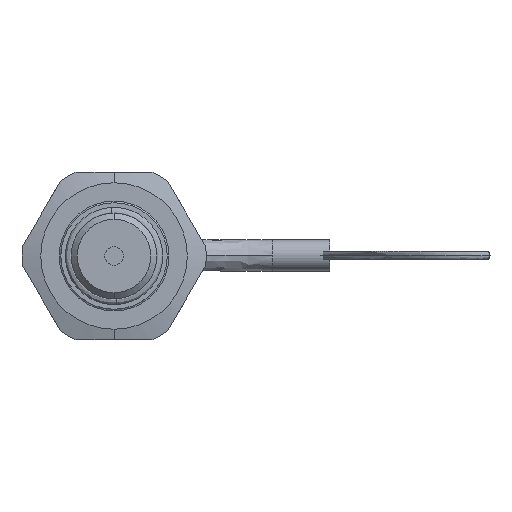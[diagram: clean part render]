
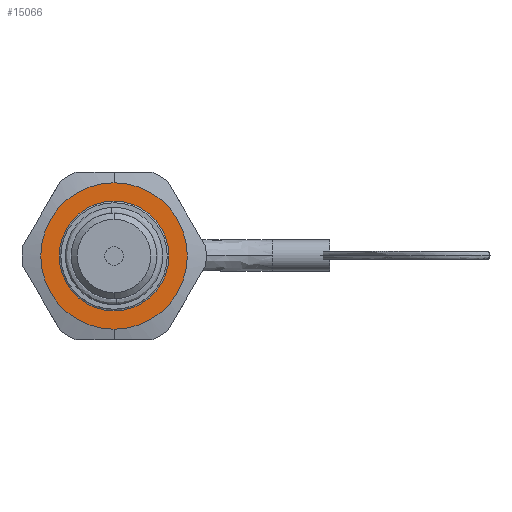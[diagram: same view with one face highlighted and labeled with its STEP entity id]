
A CAD part, left-side view. The second image highlights one B-rep face of the part: STEP entity #15066.
In plain terms, the highlighted free-form (B-spline) face has degree [1, 1] with [2, 2] control points.
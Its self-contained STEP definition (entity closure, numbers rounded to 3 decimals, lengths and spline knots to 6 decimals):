
#395=B_SPLINE_SURFACE_WITH_KNOTS('',1,1,((#23128,#23129),(#23130,#23131)),
 .PLANE_SURF.,.F.,.F.,.F.,(2,2),(2,2),(0.,1.),(0.,1.),.UNSPECIFIED.);
#2100=ORIENTED_EDGE('',*,*,#6971,.T.);
#2101=ORIENTED_EDGE('',*,*,#7015,.T.);
#2102=ORIENTED_EDGE('',*,*,#6919,.F.);
#2103=ORIENTED_EDGE('',*,*,#7016,.F.);
#6919=EDGE_CURVE('',#9397,#9398,#11043,.T.);
#6971=EDGE_CURVE('',#9428,#9427,#11067,.T.);
#7015=EDGE_CURVE('',#9427,#9428,#11081,.T.);
#7016=EDGE_CURVE('',#9398,#9397,#11082,.T.);
#9397=VERTEX_POINT('',#22694);
#9398=VERTEX_POINT('',#22695);
#9427=VERTEX_POINT('',#22937);
#9428=VERTEX_POINT('',#22939);
#11043=CIRCLE('',#16151,0.0134);
#11067=CIRCLE('',#16175,0.0179);
#11081=CIRCLE('',#16189,0.0179);
#11082=CIRCLE('',#16190,0.0134);
#12434=EDGE_LOOP('',(#2100,#2101));
#12435=EDGE_LOOP('',(#2102,#2103));
#13366=FACE_BOUND('',#12434,.T.);
#13367=FACE_BOUND('',#12435,.T.);
#15066=ADVANCED_FACE('',(#13366,#13367),#395,.F.);
#16151=AXIS2_PLACEMENT_3D('',#22693,#17690,#17691);
#16175=AXIS2_PLACEMENT_3D('',#22938,#17738,#17739);
#16189=AXIS2_PLACEMENT_3D('',#23132,#17778,#17779);
#16190=AXIS2_PLACEMENT_3D('',#23133,#17780,#17781);
#17690=DIRECTION('',(-1.,0.,0.));
#17691=DIRECTION('',(0.,0.,1.));
#17738=DIRECTION('',(-1.,0.,0.));
#17739=DIRECTION('',(0.,0.,1.));
#17778=DIRECTION('',(-1.,0.,0.));
#17779=DIRECTION('',(0.,0.,1.));
#17780=DIRECTION('',(-1.,0.,0.));
#17781=DIRECTION('',(0.,0.,1.));
#22693=CARTESIAN_POINT('',(0.0145,0.,0.));
#22694=CARTESIAN_POINT('',(0.0145,0.,0.0134));
#22695=CARTESIAN_POINT('',(0.0145,0.,-0.0134));
#22937=CARTESIAN_POINT('',(0.0145,0.,0.0179));
#22938=CARTESIAN_POINT('',(0.0145,0.,0.));
#22939=CARTESIAN_POINT('',(0.0145,0.,-0.0179));
#23128=CARTESIAN_POINT('',(0.0145,-0.018115,0.018115));
#23129=CARTESIAN_POINT('',(0.0145,0.018115,0.018115));
#23130=CARTESIAN_POINT('',(0.0145,-0.018115,-0.018115));
#23131=CARTESIAN_POINT('',(0.0145,0.018115,-0.018115));
#23132=CARTESIAN_POINT('',(0.0145,0.,0.));
#23133=CARTESIAN_POINT('',(0.0145,0.,0.));
